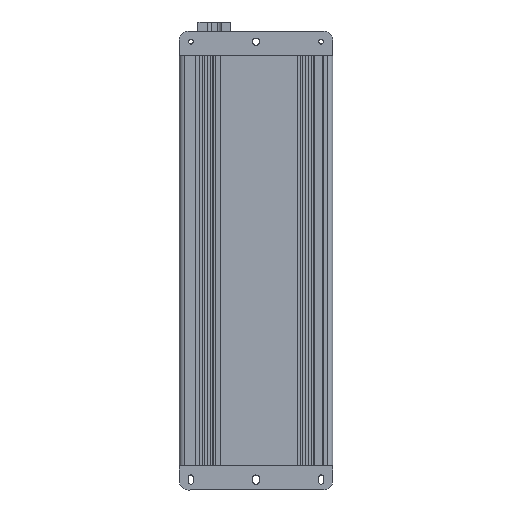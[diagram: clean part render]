
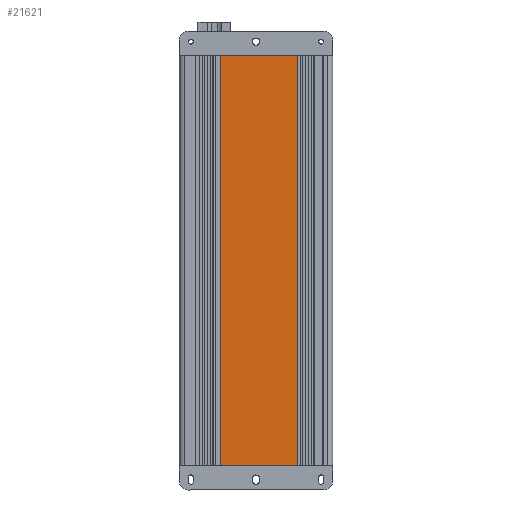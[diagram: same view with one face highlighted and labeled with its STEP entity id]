
A CAD part, front view. The second image highlights one B-rep face of the part: STEP entity #21621.
In plain terms, the highlighted planar face has unit normal (0, -1, 0).
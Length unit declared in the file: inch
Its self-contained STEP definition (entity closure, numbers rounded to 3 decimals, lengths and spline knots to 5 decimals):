
#974=LINE('',#41266,#2685);
#1504=LINE('',#43011,#3215);
#1505=LINE('',#43014,#3216);
#1506=LINE('',#43015,#3217);
#2685=VECTOR('',#26889,0.3937);
#3215=VECTOR('',#28541,0.3937);
#3216=VECTOR('',#28544,0.3937);
#3217=VECTOR('',#28545,0.3937);
#5380=FACE_OUTER_BOUND('',#6565,.T.);
#6565=EDGE_LOOP('',(#17835,#17836,#17837,#17838));
#9055=VERTEX_POINT('',#41263);
#9056=VERTEX_POINT('',#41265);
#9594=VERTEX_POINT('',#43009);
#9595=VERTEX_POINT('',#43013);
#11673=EDGE_CURVE('',#9055,#9056,#974,.T.);
#12489=EDGE_CURVE('',#9055,#9594,#1504,.T.);
#12490=EDGE_CURVE('',#9595,#9594,#1505,.T.);
#12491=EDGE_CURVE('',#9056,#9595,#1506,.T.);
#17835=ORIENTED_EDGE('',*,*,#11673,.F.);
#17836=ORIENTED_EDGE('',*,*,#12489,.T.);
#17837=ORIENTED_EDGE('',*,*,#12490,.F.);
#17838=ORIENTED_EDGE('',*,*,#12491,.F.);
#19983=PLANE('',#23563);
#21621=ADVANCED_FACE('',(#5380),#19983,.T.);
#23563=AXIS2_PLACEMENT_3D('',#43012,#28542,#28543);
#26889=DIRECTION('',(1.,0.,0.));
#28541=DIRECTION('',(0.,0.,-1.));
#28542=DIRECTION('center_axis',(0.,-1.,0.));
#28543=DIRECTION('ref_axis',(-1.,0.,0.));
#28544=DIRECTION('',(-1.,0.,0.));
#28545=DIRECTION('',(0.,0.,-1.));
#41263=CARTESIAN_POINT('',(0.5257,-2.15488,-1.31945));
#41265=CARTESIAN_POINT('',(3.28161,-2.15488,-1.31945));
#41266=CARTESIAN_POINT('',(2.54145,-2.15488,-1.31945));
#43009=CARTESIAN_POINT('',(0.5257,-2.15488,-16.08323));
#43011=CARTESIAN_POINT('',(0.5257,-2.15488,-1.31945));
#43012=CARTESIAN_POINT('Origin',(3.28161,-2.15488,-1.31945));
#43013=CARTESIAN_POINT('',(3.28161,-2.15488,-16.08323));
#43014=CARTESIAN_POINT('',(2.54145,-2.15488,-16.08323));
#43015=CARTESIAN_POINT('',(3.28161,-2.15488,-1.31945));
